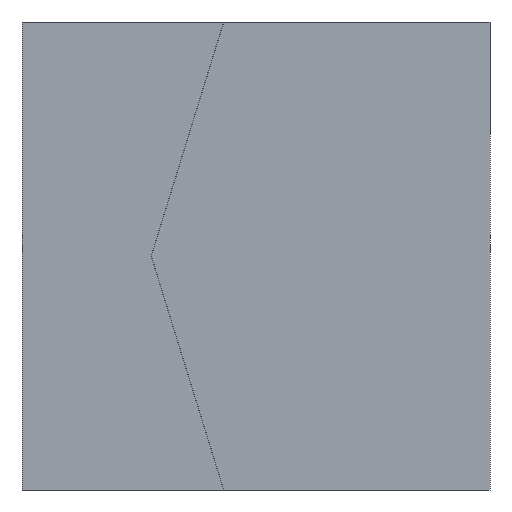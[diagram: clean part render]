
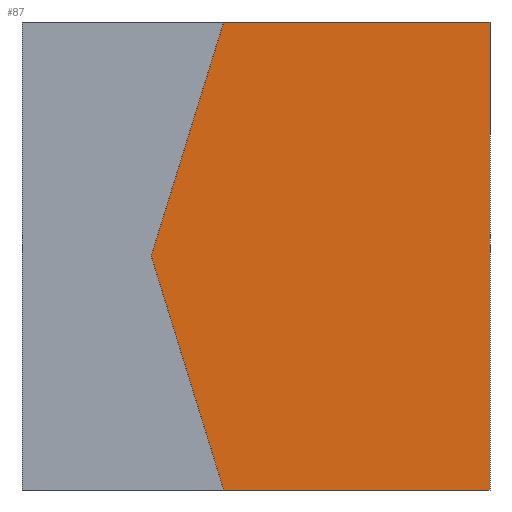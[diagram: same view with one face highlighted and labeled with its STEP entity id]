
A CAD part, front view. The second image highlights one B-rep face of the part: STEP entity #87.
In plain terms, the highlighted planar face has unit normal (0, -1, 0).
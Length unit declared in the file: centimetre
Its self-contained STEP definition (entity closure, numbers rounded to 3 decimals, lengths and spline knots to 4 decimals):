
#16 = CARTESIAN_POINT ( 'NONE',  ( 1000., 0., 0. ) ) ;
#18 = ORIENTED_EDGE ( 'NONE', *, *, #434, .F. ) ;
#22 = VERTEX_POINT ( 'NONE', #207 ) ;
#25 = DIRECTION ( 'NONE',  ( 0., 0., 1. ) ) ;
#27 = CARTESIAN_POINT ( 'NONE',  ( 0., 0., 1000. ) ) ;
#43 = ORIENTED_EDGE ( 'NONE', *, *, #66, .F. ) ;
#52 = ORIENTED_EDGE ( 'NONE', *, *, #139, .T. ) ;
#60 = EDGE_LOOP ( 'NONE', ( #43, #18, #127, #52, #447 ) ) ;
#66 = EDGE_CURVE ( 'NONE', #22, #203, #281, .T. ) ;
#70 = CARTESIAN_POINT ( 'NONE',  ( 1000., 0., 1000. ) ) ;
#87 = ADVANCED_FACE ( 'NONE', ( #431 ), #134, .F. ) ;
#92 = DIRECTION ( 'NONE',  ( 1., 0., 0. ) ) ;
#99 = VECTOR ( 'NONE', #110, 100. ) ;
#110 = DIRECTION ( 'NONE',  ( 0., 0., -1. ) ) ;
#126 = LINE ( 'NONE', #213, #160 ) ;
#127 = ORIENTED_EDGE ( 'NONE', *, *, #146, .F. ) ;
#134 = PLANE ( 'NONE',  #436 ) ;
#137 = CARTESIAN_POINT ( 'NONE',  ( 276.0994, 0., 500. ) ) ;
#139 = EDGE_CURVE ( 'NONE', #443, #385, #172, .T. ) ;
#146 = EDGE_CURVE ( 'NONE', #443, #422, #323, .T. ) ;
#160 = VECTOR ( 'NONE', #287, 100. ) ;
#172 = LINE ( 'NONE', #320, #317 ) ;
#185 = VECTOR ( 'NONE', #405, 100. ) ;
#203 = VERTEX_POINT ( 'NONE', #70 ) ;
#204 = CARTESIAN_POINT ( 'NONE',  ( 0., 0., 1000. ) ) ;
#207 = CARTESIAN_POINT ( 'NONE',  ( 431.0844, 0., 1000. ) ) ;
#213 = CARTESIAN_POINT ( 'NONE',  ( 431.0844, 0., 1000. ) ) ;
#253 = LINE ( 'NONE', #407, #99 ) ;
#255 = VECTOR ( 'NONE', #286, 100. ) ;
#281 = LINE ( 'NONE', #204, #185 ) ;
#286 = DIRECTION ( 'NONE',  ( -0.296, 0., 0.955 ) ) ;
#287 = DIRECTION ( 'NONE',  ( 0.296, 0., 0.955 ) ) ;
#317 = VECTOR ( 'NONE', #92, 100. ) ;
#320 = CARTESIAN_POINT ( 'NONE',  ( 0., 0., 0. ) ) ;
#323 = LINE ( 'NONE', #137, #255 ) ;
#361 = EDGE_CURVE ( 'NONE', #203, #385, #253, .T. ) ;
#364 = DIRECTION ( 'NONE',  ( 0., 1., 0. ) ) ;
#365 = CARTESIAN_POINT ( 'NONE',  ( 276.0994, 0., 500. ) ) ;
#372 = CARTESIAN_POINT ( 'NONE',  ( 431.0844, 0., 0. ) ) ;
#385 = VERTEX_POINT ( 'NONE', #16 ) ;
#405 = DIRECTION ( 'NONE',  ( 1., 0., 0. ) ) ;
#407 = CARTESIAN_POINT ( 'NONE',  ( 1000., 0., 1000. ) ) ;
#422 = VERTEX_POINT ( 'NONE', #365 ) ;
#431 = FACE_OUTER_BOUND ( 'NONE', #60, .T. ) ;
#434 = EDGE_CURVE ( 'NONE', #422, #22, #126, .T. ) ;
#436 = AXIS2_PLACEMENT_3D ( 'NONE', #27, #364, #25 ) ;
#443 = VERTEX_POINT ( 'NONE', #372 ) ;
#447 = ORIENTED_EDGE ( 'NONE', *, *, #361, .F. ) ;
